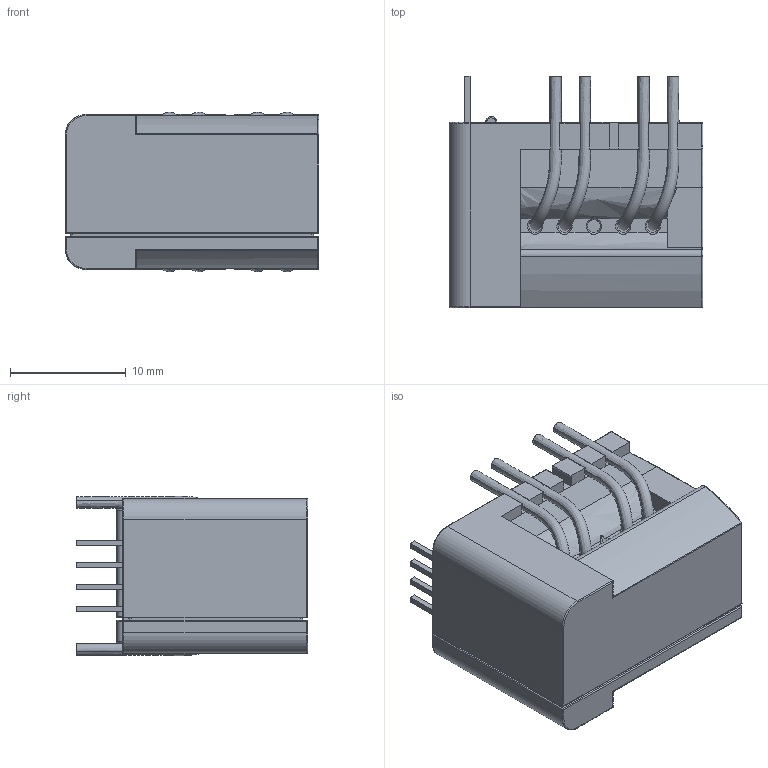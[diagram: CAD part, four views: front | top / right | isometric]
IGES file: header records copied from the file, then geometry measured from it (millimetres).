
Start section: Elysium IGES Interface
Global section: file name: \\Gva50\sd-data\Etudes\GVu\BLACK BOX\CASR\CASR 25-50-NP_SP1 Blackbox\CASR 25-50-NP_SP1 Blackbox.igs; native system: SolidDesigner 16.00A  16-Aug-2008; preprocessor: CoCreate IGES_3D V2.2; author: Unknown; organization: Unknown; date: 20090604.144601; units: millimetre
Bounding box: 21.91 x 20 x 13.77 mm (x, y, z)
Volume: 4275.8 mm3; surface area: 2411.7 mm2
Topology: 9 solids, 9 shells, 349 faces, 899 edges, 565 vertices
Faces by surface type: bspline 349
